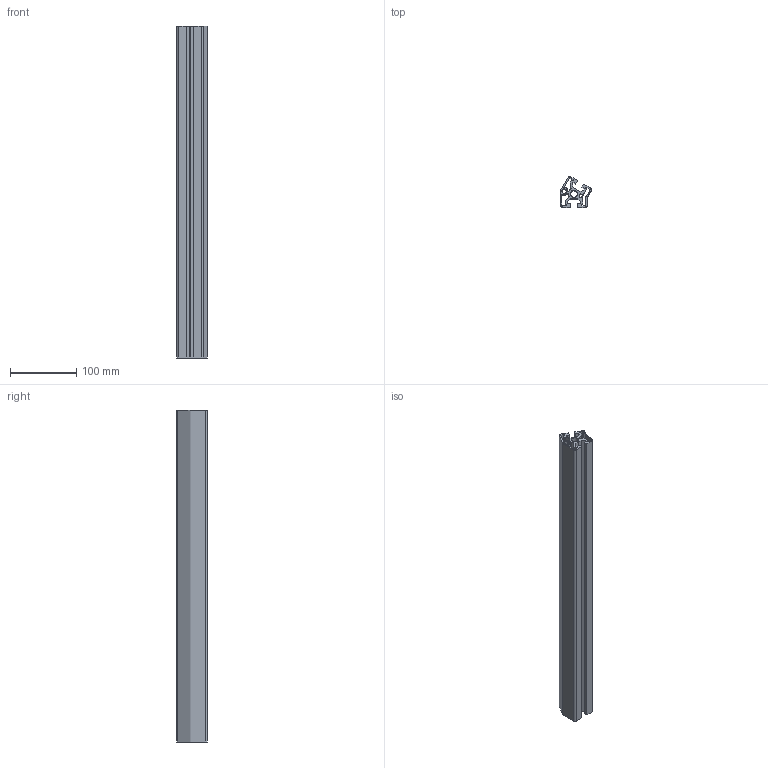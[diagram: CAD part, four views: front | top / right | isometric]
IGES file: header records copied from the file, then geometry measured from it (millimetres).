
Start section: SolidWorks IGES file using analytic representation for surfaces
Global section: file name: C:\Documents and Settings\Administrator\デスクトップ\指定保存後3回目\SolidWorks\SF\SF40・45\Frame\SFF-J74A.IGS; native system: SolidWorks 2006 by SolidWorks Corporation; preprocessor: SolidWorks 2006 by SolidWorks Corporation; author: Administrator; date: 061213.114113; units: millimetre
Bounding box: 46.22 x 46.22 x 500 mm (x, y, z)
Surface area: 243272.9 mm2 (no closed solid volume)
Topology: 0 solids, 0 shells, 113 faces, 1559 edges, 1892 vertices
Faces by surface type: revolution 57, bspline 56
